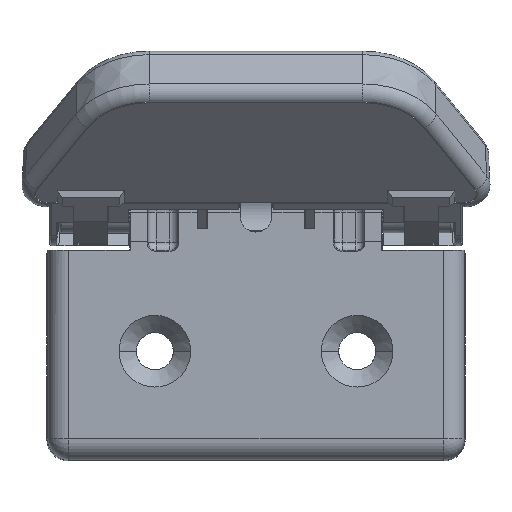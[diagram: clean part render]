
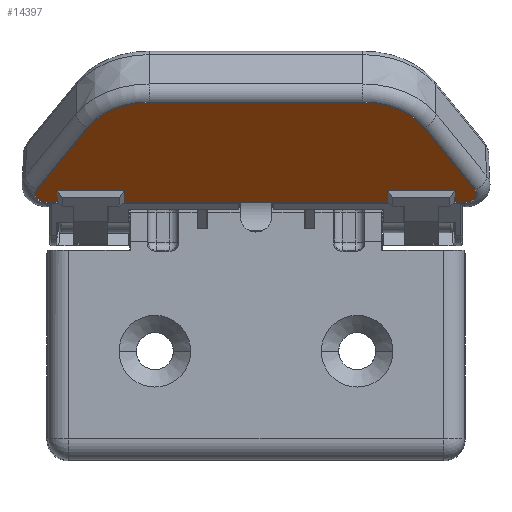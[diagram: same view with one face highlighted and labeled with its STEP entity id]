
A CAD part, front view. The second image highlights one B-rep face of the part: STEP entity #14397.
In plain terms, the highlighted planar face has unit normal (0, -0.707, -0.707).
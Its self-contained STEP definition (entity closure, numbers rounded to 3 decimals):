
#8938=DIRECTION('',(1.,0.,0.));
#8939=VECTOR('',#8938,1.141);
#8940=CARTESIAN_POINT('',(23.6,-6.807,1.15));
#8941=LINE('',#8940,#8939);
#9836=DIRECTION('',(1.,0.,0.));
#9837=VECTOR('',#9836,31.2);
#9838=CARTESIAN_POINT('',(-15.6,-6.807,1.15));
#9839=LINE('',#9838,#9837);
#10226=DIRECTION('',(1.,0.,0.));
#10227=VECTOR('',#10226,1.141);
#10228=CARTESIAN_POINT('',(-24.741,-6.807,
1.15));
#10229=LINE('',#10228,#10227);
#10261=DIRECTION('',(-1.,0.,0.));
#10262=VECTOR('',#10261,25.359);
#10263=CARTESIAN_POINT('',(12.679,-18.63,
12.974));
#10264=LINE('',#10263,#10262);
#10296=DIRECTION('',(0.,0.707,-0.707));
#10297=VECTOR('',#10296,2.);
#10298=CARTESIAN_POINT('',(15.6,-8.221,
2.564));
#10299=LINE('',#10298,#10297);
#10303=CARTESIAN_POINT('',(-24.741,-6.807,
1.15));
#10304=CARTESIAN_POINT('',(-24.865,-6.807,
1.15));
#10305=CARTESIAN_POINT('',(-25.104,-6.83,
1.173));
#10306=CARTESIAN_POINT('',(-25.445,-6.929,
1.273));
#10307=CARTESIAN_POINT('',(-25.736,-7.088,
1.431));
#10308=CARTESIAN_POINT('',(-25.96,-7.294,
1.637));
#10309=CARTESIAN_POINT('',(-26.101,-7.534,
1.877));
#10310=CARTESIAN_POINT('',(-26.149,-7.791,
2.134));
#10311=CARTESIAN_POINT('',(-26.1,-8.05,
2.393));
#10312=CARTESIAN_POINT('',(-26.009,-8.207,
2.55));
#10313=CARTESIAN_POINT('',(-25.947,-8.283,
2.626));
#10318=DIRECTION('',(0.5,-0.612,0.612));
#10319=VECTOR('',#10318,12.077);
#10320=CARTESIAN_POINT('',(-25.947,-8.283,
2.626));
#10321=LINE('',#10320,#10319);
#10325=CARTESIAN_POINT('',(-12.679,-12.728,
7.071));
#10326=DIRECTION('',(0.,0.707,0.707));
#10327=DIRECTION('',(-0.866,-0.354,0.354));
#10328=AXIS2_PLACEMENT_3D('',#10325,#10326,#10327);
#10333=CARTESIAN_POINT('',(12.679,-12.728,
7.071));
#10334=DIRECTION('',(0.,0.707,0.707));
#10335=DIRECTION('',(0.,-0.707,0.707));
#10336=AXIS2_PLACEMENT_3D('',#10333,#10334,#10335);
#10341=DIRECTION('',(0.5,0.612,-0.612));
#10342=VECTOR('',#10341,12.077);
#10343=CARTESIAN_POINT('',(19.909,-15.679,
10.022));
#10344=LINE('',#10343,#10342);
#10348=CARTESIAN_POINT('',(25.947,-8.283,
2.626));
#10349=CARTESIAN_POINT('',(26.009,-8.207,
2.55));
#10350=CARTESIAN_POINT('',(26.1,-8.05,
2.393));
#10351=CARTESIAN_POINT('',(26.149,-7.791,
2.134));
#10352=CARTESIAN_POINT('',(26.101,-7.534,
1.877));
#10353=CARTESIAN_POINT('',(25.96,-7.294,
1.637));
#10354=CARTESIAN_POINT('',(25.736,-7.088,
1.431));
#10355=CARTESIAN_POINT('',(25.445,-6.929,
1.273));
#10356=CARTESIAN_POINT('',(25.104,-6.83,
1.173));
#10357=CARTESIAN_POINT('',(24.865,-6.807,
1.15));
#10358=CARTESIAN_POINT('',(24.741,-6.807,
1.15));
#10363=DIRECTION('',(0.,-0.707,0.707));
#10364=VECTOR('',#10363,2.);
#10365=CARTESIAN_POINT('',(23.6,-6.807,
1.15));
#10366=LINE('',#10365,#10364);
#10370=DIRECTION('',(-1.,0.,0.));
#10371=VECTOR('',#10370,8.);
#10372=CARTESIAN_POINT('',(23.6,-8.221,
2.564));
#10373=LINE('',#10372,#10371);
#10510=DIRECTION('',(0.,0.707,-0.707));
#10511=VECTOR('',#10510,2.);
#10512=CARTESIAN_POINT('',(-15.6,-8.221,2.564));
#10513=LINE('',#10512,#10511);
#10517=DIRECTION('',(1.,0.,0.));
#10518=VECTOR('',#10517,8.);
#10519=CARTESIAN_POINT('',(-23.6,-8.221,
2.564));
#10520=LINE('',#10519,#10518);
#10531=DIRECTION('',(0.,-0.707,0.707));
#10532=VECTOR('',#10531,2.);
#10533=CARTESIAN_POINT('',(-23.6,-6.807,
1.15));
#10534=LINE('',#10533,#10532);
#12163=CARTESIAN_POINT('',(23.6,-6.807,
1.15));
#12164=VERTEX_POINT('',#12163);
#12165=CARTESIAN_POINT('',(24.741,-6.807,
1.15));
#12166=VERTEX_POINT('',#12165);
#12169=CARTESIAN_POINT('',(-15.6,-6.807,1.15));
#12170=VERTEX_POINT('',#12169);
#12171=CARTESIAN_POINT('',(15.6,-6.807,
1.15));
#12172=VERTEX_POINT('',#12171);
#12175=CARTESIAN_POINT('',(-24.741,-6.807,
1.15));
#12176=VERTEX_POINT('',#12175);
#12177=CARTESIAN_POINT('',(-23.6,-6.807,
1.15));
#12178=VERTEX_POINT('',#12177);
#12563=CARTESIAN_POINT('',(15.6,-8.221,
2.564));
#12564=VERTEX_POINT('',#12563);
#12589=CARTESIAN_POINT('',(-23.6,-8.221,
2.564));
#12590=VERTEX_POINT('',#12589);
#12595=CARTESIAN_POINT('',(-15.6,-8.221,2.564));
#12596=VERTEX_POINT('',#12595);
#12597=VERTEX_POINT('',#10313);
#12598=CARTESIAN_POINT('',(-19.909,-15.679,
10.022));
#12599=VERTEX_POINT('',#12598);
#12600=CARTESIAN_POINT('',(-12.679,-18.63,
12.974));
#12601=VERTEX_POINT('',#12600);
#12602=CARTESIAN_POINT('',(12.679,-18.63,
12.974));
#12603=VERTEX_POINT('',#12602);
#12604=CARTESIAN_POINT('',(19.909,-15.679,
10.022));
#12605=VERTEX_POINT('',#12604);
#12606=CARTESIAN_POINT('',(25.947,-8.283,
2.626));
#12607=VERTEX_POINT('',#12606);
#12608=CARTESIAN_POINT('',(23.6,-8.221,
2.564));
#12609=VERTEX_POINT('',#12608);
#14368=CARTESIAN_POINT('',(0.,-5.657,0.));
#14369=DIRECTION('',(0.,0.707,0.707));
#14370=DIRECTION('',(-1.,0.,0.));
#14371=AXIS2_PLACEMENT_3D('',#14368,#14369,#14370);
#14372=PLANE('',#14371);
#14374=ORIENTED_EDGE('',*,*,#14373,.T.);
#14375=ORIENTED_EDGE('',*,*,#13861,.F.);
#14377=ORIENTED_EDGE('',*,*,#14376,.F.);
#14379=ORIENTED_EDGE('',*,*,#14378,.F.);
#14381=ORIENTED_EDGE('',*,*,#14380,.F.);
#14382=ORIENTED_EDGE('',*,*,#14168,.F.);
#14383=ORIENTED_EDGE('',*,*,#14231,.T.);
#14384=ORIENTED_EDGE('',*,*,#14245,.T.);
#14385=ORIENTED_EDGE('',*,*,#14259,.T.);
#14386=ORIENTED_EDGE('',*,*,#14273,.F.);
#14387=ORIENTED_EDGE('',*,*,#14287,.T.);
#14388=ORIENTED_EDGE('',*,*,#14301,.T.);
#14389=ORIENTED_EDGE('',*,*,#14362,.T.);
#14390=ORIENTED_EDGE('',*,*,#12984,.F.);
#14392=ORIENTED_EDGE('',*,*,#14391,.T.);
#14394=ORIENTED_EDGE('',*,*,#14393,.T.);
#14395=EDGE_LOOP('',(#14374,#14375,#14377,#14379,#14381,#14382,#14383,#14384,
#14385,#14386,#14387,#14388,#14389,#14390,#14392,#14394));
#14396=FACE_OUTER_BOUND('',#14395,.F.);
#14397=ADVANCED_FACE('',(#14396),#14372,.F.);
#10314=B_SPLINE_CURVE_WITH_KNOTS('',3,(#10303,#10304,#10305,#10306,#10307,
#10308,#10309,#10310,#10311,#10312,#10313),.UNSPECIFIED.,.F.,.F.,(4,1,1,1,1,1,1,
1,4),(0.,0.125,0.25,0.375,0.5,0.625,0.75,0.875,1.),
.UNSPECIFIED.);
#10329=CIRCLE('',#10328,8.347);
#10337=CIRCLE('',#10336,8.347);
#10359=B_SPLINE_CURVE_WITH_KNOTS('',3,(#10348,#10349,#10350,#10351,#10352,
#10353,#10354,#10355,#10356,#10357,#10358),.UNSPECIFIED.,.F.,.F.,(4,1,1,1,1,1,1,
1,4),(0.,0.125,0.25,0.375,0.5,0.625,0.75,0.875,1.),
.UNSPECIFIED.);
#12984=EDGE_CURVE('',#12164,#12166,#8941,.T.);
#13861=EDGE_CURVE('',#12170,#12172,#9839,.T.);
#14168=EDGE_CURVE('',#12176,#12178,#10229,.T.);
#14231=EDGE_CURVE('',#12176,#12597,#10314,.T.);
#14245=EDGE_CURVE('',#12597,#12599,#10321,.T.);
#14259=EDGE_CURVE('',#12599,#12601,#10329,.T.);
#14273=EDGE_CURVE('',#12603,#12601,#10264,.T.);
#14287=EDGE_CURVE('',#12603,#12605,#10337,.T.);
#14301=EDGE_CURVE('',#12605,#12607,#10344,.T.);
#14362=EDGE_CURVE('',#12607,#12166,#10359,.T.);
#14373=EDGE_CURVE('',#12564,#12172,#10299,.T.);
#14376=EDGE_CURVE('',#12596,#12170,#10513,.T.);
#14378=EDGE_CURVE('',#12590,#12596,#10520,.T.);
#14380=EDGE_CURVE('',#12178,#12590,#10534,.T.);
#14391=EDGE_CURVE('',#12164,#12609,#10366,.T.);
#14393=EDGE_CURVE('',#12609,#12564,#10373,.T.);
